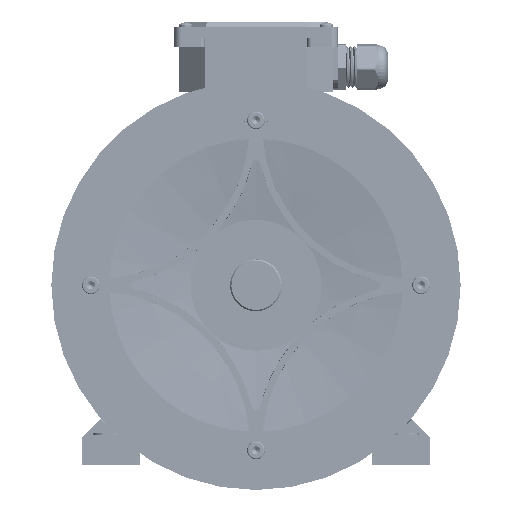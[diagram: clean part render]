
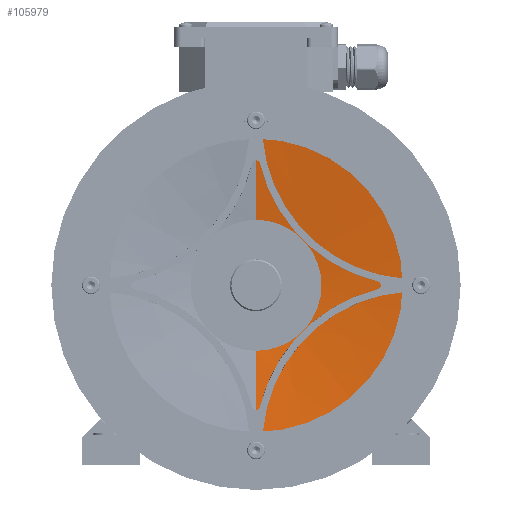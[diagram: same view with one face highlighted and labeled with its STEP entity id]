
A CAD part, front view. The second image highlights one B-rep face of the part: STEP entity #105979.
In plain terms, the highlighted conical face has half-angle 83.29 degrees and reference radius 48 mm.
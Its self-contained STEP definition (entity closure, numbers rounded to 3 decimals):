
#366 = AXIS2_PLACEMENT_3D ( 'NONE', #138523, #66895, #150484 ) ;
#7804 = CARTESIAN_POINT ( 'NONE',  ( 0., 15.363, 48. ) ) ;
#8418 = AXIS2_PLACEMENT_3D ( 'NONE', #57356, #45374, #141008 ) ;
#18832 = EDGE_CURVE ( 'NONE', #135798, #27588, #61207, .T. ) ;
#21180 = ORIENTED_EDGE ( 'NONE', *, *, #18832, .T. ) ;
#24375 = CARTESIAN_POINT ( 'NONE',  ( 0., 8.363, 0. ) ) ;
#24623 = CARTESIAN_POINT ( 'NONE',  ( 0., 15.363, 48. ) ) ;
#27588 = VERTEX_POINT ( 'NONE', #85369 ) ;
#31947 = CARTESIAN_POINT ( 'NONE',  ( 0., 15.363, -48. ) ) ;
#36328 = DIRECTION ( 'NONE',  ( 0., 0., -1. ) ) ;
#45374 = DIRECTION ( 'NONE',  ( 0., -1., 0. ) ) ;
#48708 = CIRCLE ( 'NONE', #51010, 107.5 ) ;
#51010 = AXIS2_PLACEMENT_3D ( 'NONE', #24375, #107871, #36328 ) ;
#57356 = CARTESIAN_POINT ( 'NONE',  ( 0., 15.363, 0. ) ) ;
#60788 = EDGE_CURVE ( 'NONE', #102159, #139698, #152984, .T. ) ;
#61207 = LINE ( 'NONE', #66591, #93031 ) ;
#65149 = VECTOR ( 'NONE', #144170, 1000. ) ;
#66591 = CARTESIAN_POINT ( 'NONE',  ( 0., 15.363, -48. ) ) ;
#66895 = DIRECTION ( 'NONE',  ( 0., -1., 0. ) ) ;
#85369 = CARTESIAN_POINT ( 'NONE',  ( 0., 8.363, -107.5 ) ) ;
#93031 = VECTOR ( 'NONE', #138197, 1000. ) ;
#94575 = EDGE_CURVE ( 'NONE', #27588, #139698, #48708, .T. ) ;
#102159 = VERTEX_POINT ( 'NONE', #7804 ) ;
#105979 = ADVANCED_FACE ( 'NONE', ( #114348 ), #142405, .F. ) ;
#107871 = DIRECTION ( 'NONE',  ( 0., -1., 0. ) ) ;
#112138 = CIRCLE ( 'NONE', #366, 48. ) ;
#114348 = FACE_OUTER_BOUND ( 'NONE', #148366, .T. ) ;
#116160 = CARTESIAN_POINT ( 'NONE',  ( 0., 8.363, 107.5 ) ) ;
#119128 = ORIENTED_EDGE ( 'NONE', *, *, #60788, .F. ) ;
#122696 = EDGE_CURVE ( 'NONE', #135798, #102159, #112138, .T. ) ;
#125037 = ORIENTED_EDGE ( 'NONE', *, *, #94575, .T. ) ;
#135798 = VERTEX_POINT ( 'NONE', #31947 ) ;
#138197 = DIRECTION ( 'NONE',  ( 0., -0.117, -0.993 ) ) ;
#138523 = CARTESIAN_POINT ( 'NONE',  ( 0., 15.363, 0. ) ) ;
#139698 = VERTEX_POINT ( 'NONE', #116160 ) ;
#141008 = DIRECTION ( 'NONE',  ( 0., 0., -1. ) ) ;
#142405 = CONICAL_SURFACE ( 'NONE', #8418, 48., 1.454 ) ;
#144170 = DIRECTION ( 'NONE',  ( 0., -0.117, 0.993 ) ) ;
#148366 = EDGE_LOOP ( 'NONE', ( #119128, #150900, #21180, #125037 ) ) ;
#150484 = DIRECTION ( 'NONE',  ( 0., 0., -1. ) ) ;
#150900 = ORIENTED_EDGE ( 'NONE', *, *, #122696, .F. ) ;
#152984 = LINE ( 'NONE', #24623, #65149 ) ;
